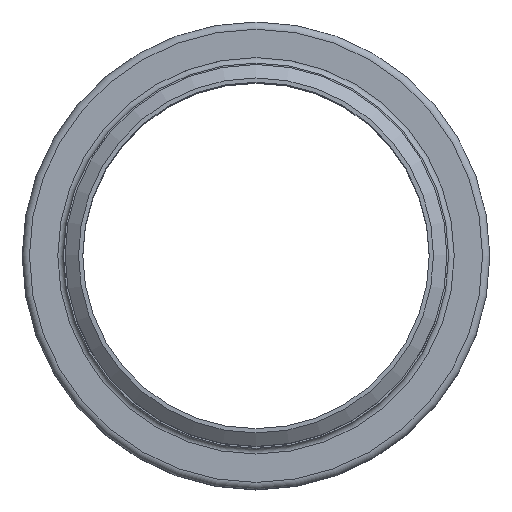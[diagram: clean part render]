
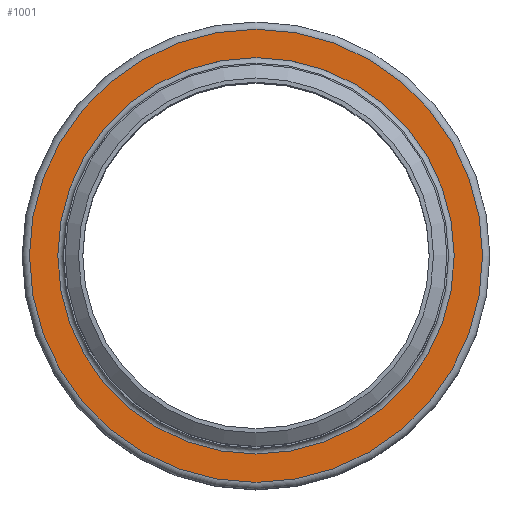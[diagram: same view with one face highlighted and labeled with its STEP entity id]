
A CAD part, top view. The second image highlights one B-rep face of the part: STEP entity #1001.
In plain terms, the highlighted planar face has unit normal (0, 0, 1).
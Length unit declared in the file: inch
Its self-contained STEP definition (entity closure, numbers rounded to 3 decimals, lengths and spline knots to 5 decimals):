
#123=FACE_BOUND('',#304,.T.);
#192=FACE_OUTER_BOUND('',#303,.T.);
#303=EDGE_LOOP('',(#832));
#304=EDGE_LOOP('',(#833));
#424=CIRCLE('',#1220,2.88725);
#425=CIRCLE('',#1222,3.30075);
#511=VERTEX_POINT('',#1895);
#512=VERTEX_POINT('',#1899);
#622=EDGE_CURVE('',#511,#511,#424,.T.);
#623=EDGE_CURVE('',#512,#512,#425,.T.);
#832=ORIENTED_EDGE('',*,*,#623,.F.);
#833=ORIENTED_EDGE('',*,*,#622,.T.);
#932=PLANE('',#1221);
#1001=ADVANCED_FACE('',(#192,#123),#932,.T.);
#1220=AXIS2_PLACEMENT_3D('',#1897,#1573,#1574);
#1221=AXIS2_PLACEMENT_3D('',#1898,#1575,#1576);
#1222=AXIS2_PLACEMENT_3D('',#1900,#1577,#1578);
#1573=DIRECTION('center_axis',(0.,0.,-1.));
#1574=DIRECTION('ref_axis',(1.,0.,0.));
#1575=DIRECTION('center_axis',(0.,0.,1.));
#1576=DIRECTION('ref_axis',(1.,0.,0.));
#1577=DIRECTION('center_axis',(0.,0.,-1.));
#1578=DIRECTION('ref_axis',(1.,0.,0.));
#1895=CARTESIAN_POINT('',(2.88725,0.,-0.08175));
#1897=CARTESIAN_POINT('Origin',(0.,0.,-0.08175));
#1898=CARTESIAN_POINT('Origin',(0.,3.30075,-0.08175));
#1899=CARTESIAN_POINT('',(3.30075,0.,-0.08175));
#1900=CARTESIAN_POINT('Origin',(0.,0.,-0.08175));
